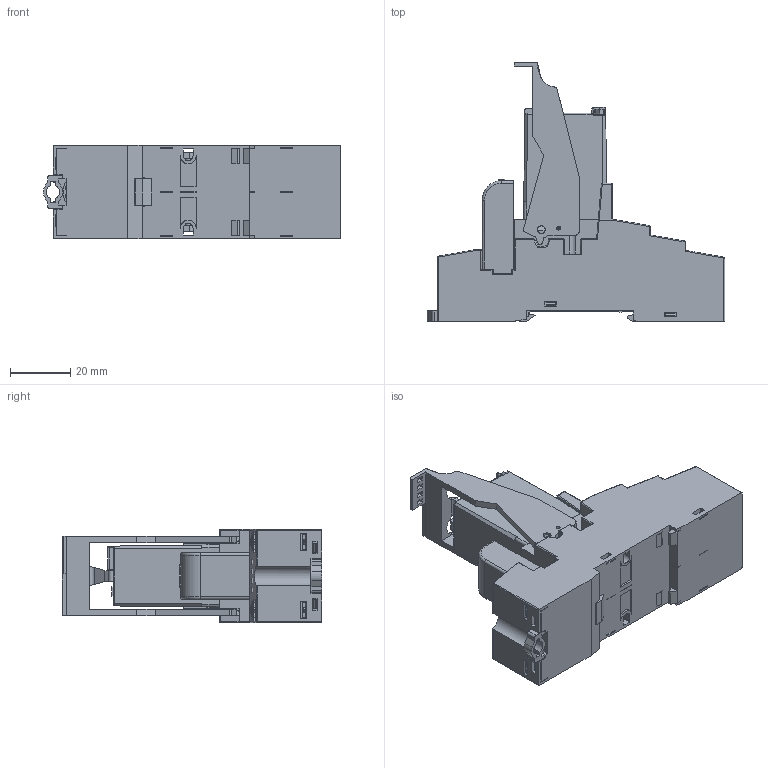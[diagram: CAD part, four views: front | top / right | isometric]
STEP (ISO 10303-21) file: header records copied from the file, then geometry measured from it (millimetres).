
FILE_DESCRIPTION(/* description */ ('Unknown'),/* implementation_level */ '2;1');
FILE_NAME(/* name */ '58P4',/* time_stamp */ '2016-02-10T17:50:29+01:00',/* author */ ('Unknown'),/* organization */ ('Unknown'),/* preprocessor_version */ 'ST-DEVELOPER v16',/* originating_system */ 'DEX',/* authorisation */ $);
FILE_SCHEMA (('AUTOMOTIVE_DESIGN {1 0 10303 214 3 1 1}'));
Products named in the file (13): 58P4; Assieme 94.P4; Assieme 94.P4.asm0; Assieme 94.P4.asm4280; top; 9902 modulino con led; guscio 9902 con led; insieme schede 9902; cs 9902; lamelle 8600; coperchio 9902; prisma 9902; None
Assembly tree (12 placements, depth 4):
  58P4
    Assieme 94.P4
      Assieme 94.P4.asm0
      Assieme 94.P4.asm4280
    top
    9902 modulino con led
      guscio 9902 con led
      insieme schede 9902
        cs 9902
        lamelle 8600
      coperchio 9902
      prisma 9902
    None
Bounding box: 98.9 x 86.26 x 31 mm (x, y, z)
Volume: 8221.2 mm3; surface area: 59277 mm2
Topology: 36 solids, 4317 shells, 5713 faces, 26805 edges, 25466 vertices
Faces by surface type: plane 4309, cylinder 1058, torus 166, cone 128, sphere 32, bspline 20
Full cylindrical faces by diameter (mm): 1 x14, 1.15 x3, 1.2 x4, 1.3 x2, 1.5 x16, 1.6 x4, 1.8 x8, 2.2 x14, 2.5 x3, 2.6 x4, 3 x3, 3.2 x3, 5 x1
Entity records: 307983 total; most frequent: CARTESIAN_POINT 62259, DIRECTION 41640, ORIENTED_EDGE 30384, EDGE_CURVE 26675, VERTEX_POINT 25456, LINE 22160, VECTOR 22160, AXIS2_PLACEMENT_3D 9740
